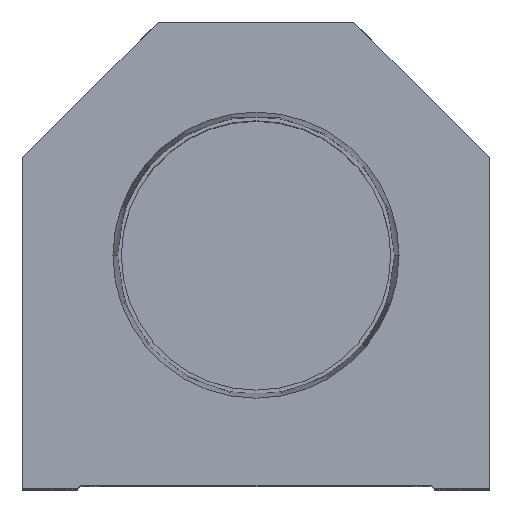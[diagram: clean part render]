
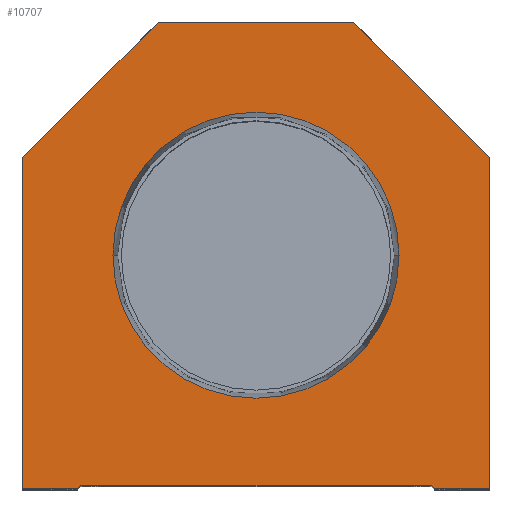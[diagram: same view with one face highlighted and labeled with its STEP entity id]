
A CAD part, top view. The second image highlights one B-rep face of the part: STEP entity #10707.
In plain terms, the highlighted planar face has unit normal (0, 0, 1).
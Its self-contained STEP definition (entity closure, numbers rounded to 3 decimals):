
#670 = DIRECTION ( 'NONE',  ( 0., 0., 1. ) ) ;
#754 = ORIENTED_EDGE ( 'NONE', *, *, #14866, .T. ) ;
#1025 = VECTOR ( 'NONE', #7530, 1000. ) ;
#1534 = AXIS2_PLACEMENT_3D ( 'NONE', #3127, #2793, #10918 ) ;
#1762 = CARTESIAN_POINT ( 'NONE',  ( 29.1, 0., 0. ) ) ;
#2037 = EDGE_CURVE ( 'NONE', #15192, #5045, #11979, .T. ) ;
#2091 = CARTESIAN_POINT ( 'NONE',  ( 28.6, 0.5, 0. ) ) ;
#2177 = DIRECTION ( 'NONE',  ( 0., -1., 0. ) ) ;
#2210 = DIRECTION ( 'NONE',  ( -0.707, 0.707, 0. ) ) ;
#2793 = DIRECTION ( 'NONE',  ( 0., 0., 1. ) ) ;
#3127 = CARTESIAN_POINT ( 'NONE',  ( 0., 38.1, 0. ) ) ;
#3307 = LINE ( 'NONE', #12644, #12556 ) ;
#3749 = LINE ( 'NONE', #13094, #6716 ) ;
#4013 = VERTEX_POINT ( 'NONE', #9972 ) ;
#4042 = VERTEX_POINT ( 'NONE', #7521 ) ;
#4428 = AXIS2_PLACEMENT_3D ( 'NONE', #12611, #4690, #5820 ) ;
#4472 = EDGE_CURVE ( 'NONE', #11469, #13557, #14504, .T. ) ;
#4498 = CARTESIAN_POINT ( 'NONE',  ( 23.374, 38.1, 0. ) ) ;
#4603 = LINE ( 'NONE', #15506, #1025 ) ;
#4690 = DIRECTION ( 'NONE',  ( 0., 0., 1. ) ) ;
#4708 = LINE ( 'NONE', #8583, #12861 ) ;
#4766 = CARTESIAN_POINT ( 'NONE',  ( -23.374, 38.1, 0. ) ) ;
#4923 = DIRECTION ( 'NONE',  ( 1., 0., 0. ) ) ;
#5045 = VERTEX_POINT ( 'NONE', #11460 ) ;
#5820 = DIRECTION ( 'NONE',  ( 1., 0., 0. ) ) ;
#5914 = ORIENTED_EDGE ( 'NONE', *, *, #2037, .T. ) ;
#6141 = VERTEX_POINT ( 'NONE', #11338 ) ;
#6389 = CIRCLE ( 'NONE', #4428, 23.374 ) ;
#6517 = EDGE_CURVE ( 'NONE', #10477, #13085, #6389, .T. ) ;
#6716 = VECTOR ( 'NONE', #14555, 1000. ) ;
#6795 = VECTOR ( 'NONE', #2210, 1000. ) ;
#7125 = ORIENTED_EDGE ( 'NONE', *, *, #9326, .T. ) ;
#7191 = CIRCLE ( 'NONE', #1534, 23.374 ) ;
#7302 = ORIENTED_EDGE ( 'NONE', *, *, #13407, .F. ) ;
#7521 = CARTESIAN_POINT ( 'NONE',  ( -28.6, 0.5, 0. ) ) ;
#7530 = DIRECTION ( 'NONE',  ( 1., 0., 0. ) ) ;
#8270 = CARTESIAN_POINT ( 'NONE',  ( -28.6, 0.5, 0. ) ) ;
#8357 = DIRECTION ( 'NONE',  ( 1., 0., 0. ) ) ;
#8428 = VECTOR ( 'NONE', #16247, 1000. ) ;
#8583 = CARTESIAN_POINT ( 'NONE',  ( -38.1, 54.1, 0. ) ) ;
#8807 = EDGE_CURVE ( 'NONE', #5045, #6141, #3749, .T. ) ;
#8897 = CARTESIAN_POINT ( 'NONE',  ( 28.6, 0., 0. ) ) ;
#9025 = CARTESIAN_POINT ( 'NONE',  ( 38.1, 0., 0. ) ) ;
#9034 = VERTEX_POINT ( 'NONE', #11906 ) ;
#9308 = CARTESIAN_POINT ( 'NONE',  ( -38.1, 54.1, 0. ) ) ;
#9326 = EDGE_CURVE ( 'NONE', #4042, #11469, #16341, .T. ) ;
#9743 = EDGE_CURVE ( 'NONE', #9034, #15192, #15687, .T. ) ;
#9972 = CARTESIAN_POINT ( 'NONE',  ( -38.1, 0., 0. ) ) ;
#10017 = CARTESIAN_POINT ( 'NONE',  ( -29.1, 0., 0. ) ) ;
#10477 = VERTEX_POINT ( 'NONE', #4766 ) ;
#10707 = ADVANCED_FACE ( 'NONE', ( #15381, #16785 ), #11172, .T. ) ;
#10832 = VERTEX_POINT ( 'NONE', #9308 ) ;
#10918 = DIRECTION ( 'NONE',  ( 1., 0., 0. ) ) ;
#11172 = PLANE ( 'NONE',  #13558 ) ;
#11338 = CARTESIAN_POINT ( 'NONE',  ( -16., 76.2, 0. ) ) ;
#11455 = EDGE_LOOP ( 'NONE', ( #754, #15553, #7125, #12012, #17336, #12784, #5914, #12315, #14461, #16245 ) ) ;
#11460 = CARTESIAN_POINT ( 'NONE',  ( 16., 76.2, 0. ) ) ;
#11469 = VERTEX_POINT ( 'NONE', #2091 ) ;
#11725 = CARTESIAN_POINT ( 'NONE',  ( 14.55, 14.55, 0. ) ) ;
#11756 = DIRECTION ( 'NONE',  ( 0., 1., 0. ) ) ;
#11798 = LINE ( 'NONE', #8897, #14433 ) ;
#11837 = VECTOR ( 'NONE', #2177, 1000. ) ;
#11906 = CARTESIAN_POINT ( 'NONE',  ( 38.1, 0., 0. ) ) ;
#11979 = LINE ( 'NONE', #14264, #6795 ) ;
#12012 = ORIENTED_EDGE ( 'NONE', *, *, #4472, .T. ) ;
#12315 = ORIENTED_EDGE ( 'NONE', *, *, #8807, .T. ) ;
#12370 = EDGE_CURVE ( 'NONE', #13557, #9034, #11798, .T. ) ;
#12556 = VECTOR ( 'NONE', #12918, 1000. ) ;
#12611 = CARTESIAN_POINT ( 'NONE',  ( 0., 38.1, 0. ) ) ;
#12644 = CARTESIAN_POINT ( 'NONE',  ( -14.55, 14.55, 0. ) ) ;
#12763 = CARTESIAN_POINT ( 'NONE',  ( 0., 0., 0. ) ) ;
#12772 = CARTESIAN_POINT ( 'NONE',  ( -38.1, 0., 0. ) ) ;
#12784 = ORIENTED_EDGE ( 'NONE', *, *, #9743, .T. ) ;
#12861 = VECTOR ( 'NONE', #16464, 1000. ) ;
#12918 = DIRECTION ( 'NONE',  ( 0.707, 0.707, 0. ) ) ;
#13085 = VERTEX_POINT ( 'NONE', #4498 ) ;
#13094 = CARTESIAN_POINT ( 'NONE',  ( 16., 76.2, 0. ) ) ;
#13407 = EDGE_CURVE ( 'NONE', #13085, #10477, #7191, .T. ) ;
#13557 = VERTEX_POINT ( 'NONE', #1762 ) ;
#13558 = AXIS2_PLACEMENT_3D ( 'NONE', #12763, #670, #8357 ) ;
#14053 = CARTESIAN_POINT ( 'NONE',  ( 38.1, 54.1, 0. ) ) ;
#14264 = CARTESIAN_POINT ( 'NONE',  ( 38.1, 54.1, 0. ) ) ;
#14325 = DIRECTION ( 'NONE',  ( 0.707, -0.707, 0. ) ) ;
#14390 = EDGE_CURVE ( 'NONE', #14418, #4042, #3307, .T. ) ;
#14418 = VERTEX_POINT ( 'NONE', #10017 ) ;
#14433 = VECTOR ( 'NONE', #4923, 1000. ) ;
#14461 = ORIENTED_EDGE ( 'NONE', *, *, #14761, .T. ) ;
#14504 = LINE ( 'NONE', #11725, #16685 ) ;
#14555 = DIRECTION ( 'NONE',  ( -1., 0., 0. ) ) ;
#14761 = EDGE_CURVE ( 'NONE', #6141, #10832, #4708, .T. ) ;
#14866 = EDGE_CURVE ( 'NONE', #4013, #14418, #4603, .T. ) ;
#15192 = VERTEX_POINT ( 'NONE', #14053 ) ;
#15274 = EDGE_LOOP ( 'NONE', ( #7302, #15882 ) ) ;
#15381 = FACE_BOUND ( 'NONE', #15274, .T. ) ;
#15506 = CARTESIAN_POINT ( 'NONE',  ( -28.6, 0., 0. ) ) ;
#15553 = ORIENTED_EDGE ( 'NONE', *, *, #14390, .T. ) ;
#15687 = LINE ( 'NONE', #9025, #17135 ) ;
#15719 = LINE ( 'NONE', #12772, #11837 ) ;
#15882 = ORIENTED_EDGE ( 'NONE', *, *, #6517, .F. ) ;
#16245 = ORIENTED_EDGE ( 'NONE', *, *, #16707, .T. ) ;
#16247 = DIRECTION ( 'NONE',  ( 1., 0., 0. ) ) ;
#16341 = LINE ( 'NONE', #8270, #8428 ) ;
#16464 = DIRECTION ( 'NONE',  ( -0.707, -0.707, 0. ) ) ;
#16685 = VECTOR ( 'NONE', #14325, 1000. ) ;
#16707 = EDGE_CURVE ( 'NONE', #10832, #4013, #15719, .T. ) ;
#16785 = FACE_OUTER_BOUND ( 'NONE', #11455, .T. ) ;
#17135 = VECTOR ( 'NONE', #11756, 1000. ) ;
#17336 = ORIENTED_EDGE ( 'NONE', *, *, #12370, .T. ) ;
